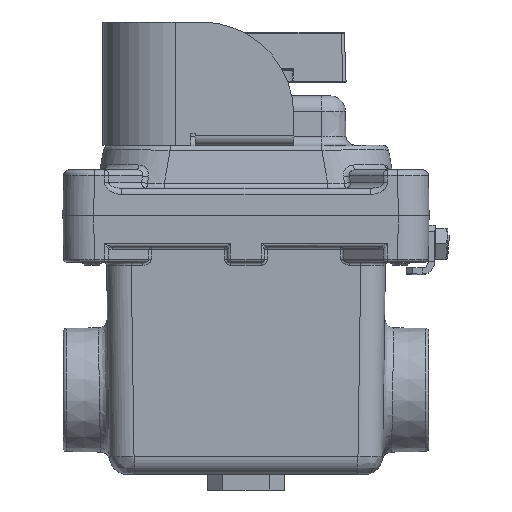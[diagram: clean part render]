
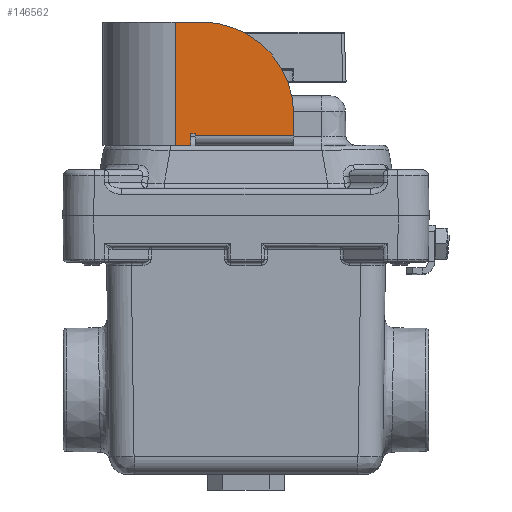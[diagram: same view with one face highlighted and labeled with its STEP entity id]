
A CAD part, left-side view. The second image highlights one B-rep face of the part: STEP entity #146562.
In plain terms, the highlighted planar face has unit normal (-1, 0, 0).
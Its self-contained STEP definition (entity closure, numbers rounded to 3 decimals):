
#146308=CARTESIAN_POINT('',(-48.5,-15.5,110.));
#146309=VERTEX_POINT('',#146308);
#146317=CARTESIAN_POINT('',(-48.5,16.5,110.));
#146318=VERTEX_POINT('',#146317);
#146319=CARTESIAN_POINT('',(-48.5,16.5,110.));
#146320=DIRECTION('',(0.0,-1.0,0.0));
#146321=VECTOR('',#146320,32.0);
#146322=LINE('',#146319,#146321);
#146323=EDGE_CURVE('',#146318,#146309,#146322,.T.);
#146425=CARTESIAN_POINT('',(-48.5,16.5,110.75));
#146426=VERTEX_POINT('',#146425);
#146427=CARTESIAN_POINT('',(-48.5,16.5,110.75));
#146428=DIRECTION('',(0.0,0.0,-1.0));
#146429=VECTOR('',#146428,0.75);
#146430=LINE('',#146427,#146429);
#146431=EDGE_CURVE('',#146426,#146318,#146430,.T.);
#146455=CARTESIAN_POINT('',(-48.5,18.0,107.));
#146456=VERTEX_POINT('',#146455);
#146457=CARTESIAN_POINT('',(-48.5,18.0,110.75));
#146458=VERTEX_POINT('',#146457);
#146459=CARTESIAN_POINT('',(-48.5,18.,107.));
#146460=DIRECTION('',(0.0,0.0,1.0));
#146461=VECTOR('',#146460,3.75);
#146462=LINE('',#146459,#146461);
#146463=EDGE_CURVE('',#146456,#146458,#146462,.T.);
#146495=CARTESIAN_POINT('',(-48.5,18.,110.75));
#146496=DIRECTION('',(0.0,-1.0,0.0));
#146497=VECTOR('',#146496,1.5);
#146498=LINE('',#146495,#146497);
#146499=EDGE_CURVE('',#146458,#146426,#146498,.T.);
#146512=CARTESIAN_POINT('',(-48.5,21.547,127.));
#146513=DIRECTION('',(-1.0,0.0,0.0));
#146514=DIRECTION('',(0.0,1.0,0.0));
#146515=AXIS2_PLACEMENT_3D('',#146512,#146513,#146514);
#146516=PLANE('',#146515);
#146517=ORIENTED_EDGE('',*,*,#146463,.T.);
#146518=ORIENTED_EDGE('',*,*,#146499,.T.);
#146519=ORIENTED_EDGE('',*,*,#146431,.T.);
#146520=ORIENTED_EDGE('',*,*,#146323,.T.);
#146521=CARTESIAN_POINT('',(-48.5,-15.5,117.));
#146522=VERTEX_POINT('',#146521);
#146523=CARTESIAN_POINT('',(-48.5,-15.5,117.));
#146524=DIRECTION('',(0.0,0.0,-1.0));
#146525=VECTOR('',#146524,7.0);
#146526=LINE('',#146523,#146525);
#146527=EDGE_CURVE('',#146522,#146309,#146526,.T.);
#146528=ORIENTED_EDGE('',*,*,#146527,.F.);
#146529=CARTESIAN_POINT('',(-48.5,14.5,147.));
#146530=VERTEX_POINT('',#146529);
#146531=CARTESIAN_POINT('',(-48.5,14.5,117.));
#146532=DIRECTION('',(1.0,0.,0.));
#146533=DIRECTION('',(0.,-0.707,0.707));
#146534=AXIS2_PLACEMENT_3D('',#146531,#146532,#146533);
#146535=CIRCLE('',#146534,30.0);
#146536=EDGE_CURVE('',#146530,#146522,#146535,.T.);
#146537=ORIENTED_EDGE('',*,*,#146536,.F.);
#146538=CARTESIAN_POINT('',(-48.5,23.,147.));
#146539=VERTEX_POINT('',#146538);
#146540=CARTESIAN_POINT('',(-48.5,23.,147.));
#146541=DIRECTION('',(0.0,-1.0,0.0));
#146542=VECTOR('',#146541,8.5);
#146543=LINE('',#146540,#146542);
#146544=EDGE_CURVE('',#146539,#146530,#146543,.T.);
#146545=ORIENTED_EDGE('',*,*,#146544,.F.);
#146546=CARTESIAN_POINT('',(-48.5,23.,107.));
#146547=VERTEX_POINT('',#146546);
#146548=CARTESIAN_POINT('',(-48.5,23.,147.));
#146549=DIRECTION('',(0.0,0.0,-1.0));
#146550=VECTOR('',#146549,40.);
#146551=LINE('',#146548,#146550);
#146552=EDGE_CURVE('',#146539,#146547,#146551,.T.);
#146553=ORIENTED_EDGE('',*,*,#146552,.T.);
#146554=CARTESIAN_POINT('',(-48.5,18.,107.));
#146555=DIRECTION('',(0.0,1.0,0.0));
#146556=VECTOR('',#146555,5.);
#146557=LINE('',#146554,#146556);
#146558=EDGE_CURVE('',#146456,#146547,#146557,.T.);
#146559=ORIENTED_EDGE('',*,*,#146558,.F.);
#146560=EDGE_LOOP('',(#146517,#146518,#146519,#146520,#146528,#146537,#146545,#146553,#146559));
#146561=FACE_OUTER_BOUND('',#146560,.T.);
#146562=ADVANCED_FACE('',(#146561),#146516,.T.);
